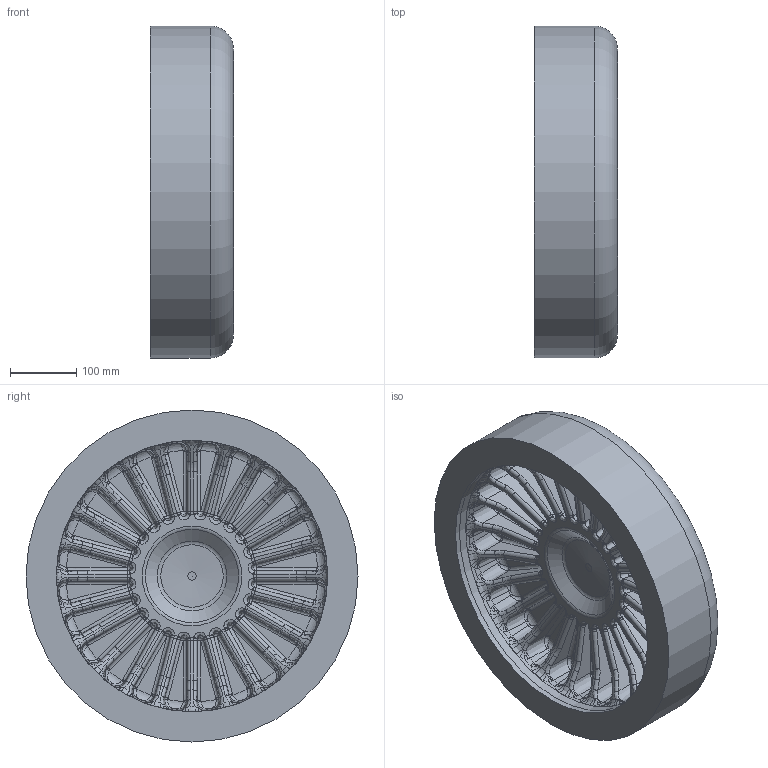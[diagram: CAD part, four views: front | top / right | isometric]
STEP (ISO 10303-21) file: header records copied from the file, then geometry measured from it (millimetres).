
FILE_DESCRIPTION(/* description */ ('Unknown'),/* implementation_level */ '2;1');
FILE_NAME(/* name */ 'CAP500C',/* time_stamp */ '2022-05-16T09:56:33+02:00',/* author */ ('Unknown'),/* organization */ ('Unknown'),/* preprocessor_version */ 'ST-DEVELOPER v18.1',/* originating_system */ 'Solid Edge',/* authorisation */ 'Unknown');
FILE_SCHEMA (('AUTOMOTIVE_DESIGN {1 0 10303 214 3 1 1}'));
Products named in the file (1): CAP500C
Bounding box: 125 x 500 x 500 mm (x, y, z)
Volume: 15414900.9 mm3; surface area: 765423.4 mm2
Topology: 1 solids, 1 shells, 1093 faces, 2543 edges, 1381 vertices
Faces by surface type: bspline 696, cylinder 170, plane 123, torus 52, cone 27, sphere 25
Full cylindrical faces by diameter (mm): 409.2 x1, 500 x1
Entity records: 43162 total; most frequent: CARTESIAN_POINT 23700, ORIENTED_EDGE 4918, DIRECTION 2978, EDGE_CURVE 2459, VERTEX_POINT 1379, AXIS2_PLACEMENT_3D 1321, EDGE_LOOP 1104, FACE_BOUND 1104
